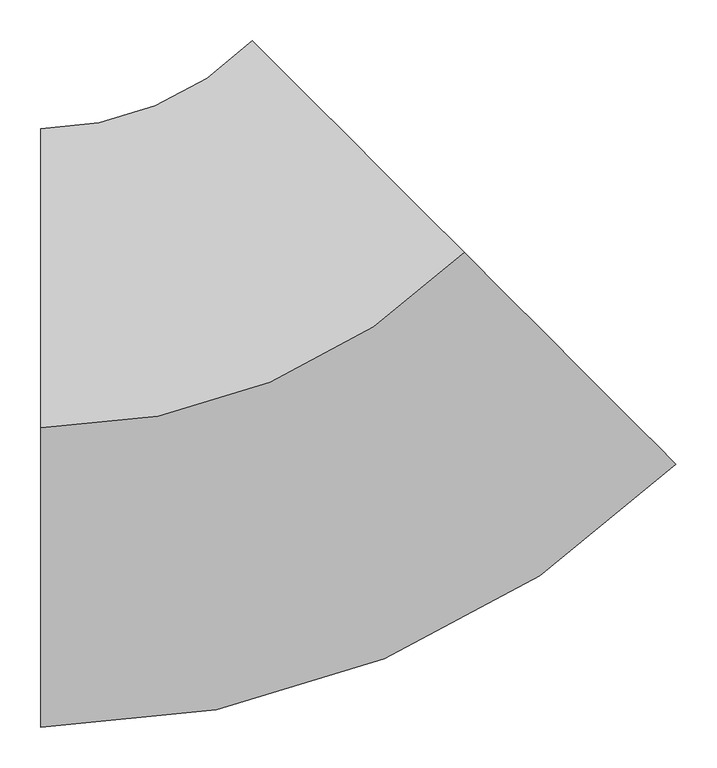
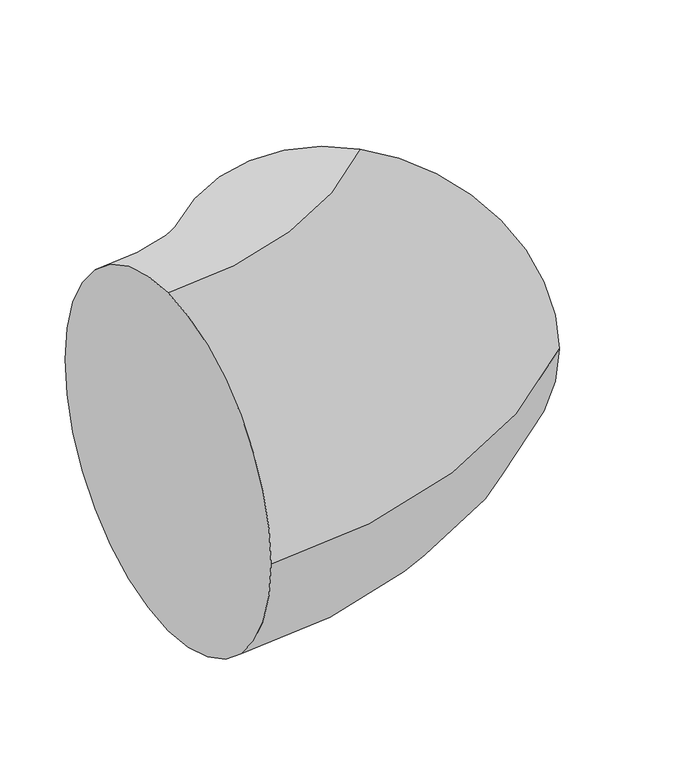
"""IFC4 building model written with IfcOpenShell, lengths in millimetres: duct fitting geometry, Семейство10 : Стандартная."""

from ifc_helpers import new_model, si_unit, point, frame, origin, place, context, project, spatial, circle_curve, ellipse_curve, trimmed, source, transform, mapped, element, save
from ifc_brep_helpers import plane_surface, revolved_surface, advanced_brep


def duct_fitting_f8626610(model_context):
    return source(origin(), model_context, "Body", "AdvancedBrep", [
        advanced_brep(
        [(-303.0055051, 0.0, 365.76), (-303.0055051, 365.76, 0.0), (-303.0055051, 0.0, -365.76), (-303.0055051, -365.76, 0.0), (214.2572474, 214.2572474, 365.76), (472.8886237, -44.3741289, 0.0), (214.2572474, 214.2572474, -365.76), (-44.3741289, 472.8886237, 0.0)],
        [
            (0, 1, circle_curve(frame((-303.0055051, 0.0, 0.0), z_axis=(-1.0, 0.0, 0.0), x_axis=(0.0, 1.0, 0.0)), 365.76)),
            (1, 2, circle_curve(frame((-303.0055051, 0.0, 0.0), z_axis=(-1.0, 0.0, 0.0), x_axis=(0.0, 1.0, 0.0)), 365.76)),
            (2, 3, circle_curve(frame((-303.0055051, 0.0, 0.0), z_axis=(-1.0, 0.0, 0.0), x_axis=(0.0, 1.0, 0.0)), 365.76)),
            (3, 0, circle_curve(frame((-303.0055051, 0.0, 0.0), z_axis=(-1.0, 0.0, 0.0), x_axis=(0.0, 1.0, 0.0)), 365.76)),
            (4, 5, circle_curve(frame((214.2572474, 214.2572474, 0.0), z_axis=(0.7071067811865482, 0.7071067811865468, 0.0), x_axis=(-0.7071067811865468, 0.7071067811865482, 0.0)), 365.76)),
            (5, 6, circle_curve(frame((214.2572474, 214.2572474, 0.0), z_axis=(0.7071067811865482, 0.7071067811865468, 0.0), x_axis=(-0.7071067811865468, 0.7071067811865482, 0.0)), 365.76)),
            (6, 7, circle_curve(frame((214.2572474, 214.2572474, 0.0), z_axis=(0.7071067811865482, 0.7071067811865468, 0.0), x_axis=(-0.7071067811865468, 0.7071067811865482, 0.0)), 365.76)),
            (7, 4, circle_curve(frame((214.2572474, 214.2572474, 0.0), z_axis=(0.7071067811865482, 0.7071067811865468, 0.0), x_axis=(-0.7071067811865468, 0.7071067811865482, 0.0)), 365.76)),
            (7, 1, circle_curve(frame((-303.0055051, 731.52, 0.0), z_axis=(0.0, 0.0, -1.0), x_axis=(0.0, -1.0, 0.0)), 365.76)),
            (0, 4, circle_curve(frame((-303.0055051, 731.52, 365.76), z_axis=(0.0, 0.0, 1.0), x_axis=(0.0, -1.0, 0.0)), 731.52)),
            (6, 2, circle_curve(frame((-303.0055051, 731.52, -365.76), z_axis=(0.0, 0.0, -1.0), x_axis=(0.0, -1.0, 0.0)), 731.52)),
            (5, 3, circle_curve(frame((-303.0055051, 731.52, 0.0), z_axis=(0.0, 0.0, -1.0), x_axis=(0.0, -1.0, 0.0)), 1097.28)),
        ],
        [
            plane_surface(frame((-303.0055051, 0.0, 0.0), z_axis=(-1.0, 0.0, 0.0), x_axis=(0.0, 0.0, 1.0))),
            plane_surface(frame((214.2572474, 214.2572474, 0.0), z_axis=(0.7071067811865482, 0.7071067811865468, 0.0), x_axis=(0.0, 0.0, 1.0))),
            revolved_surface(trimmed(ellipse_curve(frame((-303.0055051, 0.0, 0.0), z_axis=(-1.0, 0.0, 0.0), x_axis=(0.0, 1.0, 0.0)), 365.76, 365.76), [point((-303.0055051, 0.0, 365.76))], [point((-303.0055051, 365.76, 0.0))], True, "CARTESIAN"), (-303.0055051, 731.52, 0.0), (0.0, 0.0, 1.0)),
            revolved_surface(trimmed(ellipse_curve(frame((-303.0055051, 0.0, 0.0), z_axis=(-1.0, 0.0, 0.0), x_axis=(0.0, 1.0, 0.0)), 365.76, 365.76), [point((-303.0055051, 365.76, 0.0))], [point((-303.0055051, 0.0, -365.76))], True, "CARTESIAN"), (-303.0055051, 731.52, 0.0), (0.0, 0.0, 1.0)),
            revolved_surface(trimmed(ellipse_curve(frame((-303.0055051, 0.0, 0.0), z_axis=(-1.0, 0.0, 0.0), x_axis=(0.0, 1.0, 0.0)), 365.76, 365.76), [point((-303.0055051, 0.0, -365.76))], [point((-303.0055051, -365.76, 0.0))], True, "CARTESIAN"), (-303.0055051, 731.52, 0.0), (0.0, 0.0, 1.0)),
            revolved_surface(trimmed(ellipse_curve(frame((-303.0055051, 0.0, 0.0), z_axis=(-1.0, 0.0, 0.0), x_axis=(0.0, 1.0, 0.0)), 365.76, 365.76), [point((-303.0055051, -365.76, 0.0))], [point((-303.0055051, 0.0, 365.76))], True, "CARTESIAN"), (-303.0055051, 731.52, 0.0), (0.0, 0.0, 1.0)),
        ],
        [
            (0, [[1, 2, 3, 4]]),
            (1, [[5, 6, 7, 8]]),
            (2, [[9, -1, 10, -8]]),
            (3, [[11, -2, -9, -7]]),
            (4, [[12, -3, -11, -6]]),
            (5, [[-10, -4, -12, -5]]),
        ],
    ),
    ])


if __name__ == "__main__":
    model = new_model("IFC4")
    model_context = context("Model", 3, world=origin())
    ifc_project = project(units=[si_unit("LENGTHUNIT", "METRE", prefix="MILLI")], contexts=[model_context])
    site = spatial("IfcSite", under=ifc_project)
    building = spatial("IfcBuilding", under=site)
    placement = place(None, origin())
    duct_fitting_shape = duct_fitting_f8626610(model_context)
    element("IfcDuctFitting", 1, ObjectType="Семейство10 : Стандартная", at=placement, inside=building, context=model_context, shape_type="MappedRepresentation", body=[
        mapped(duct_fitting_shape, transform((0.0, 0.0, 0.0), x_axis=(1.0, 0.0, 0.0), y_axis=(0.0, 1.0, 0.0), z_axis=(0.0, 0.0, 1.0))),
    ])
    save(model, "model.ifc")
